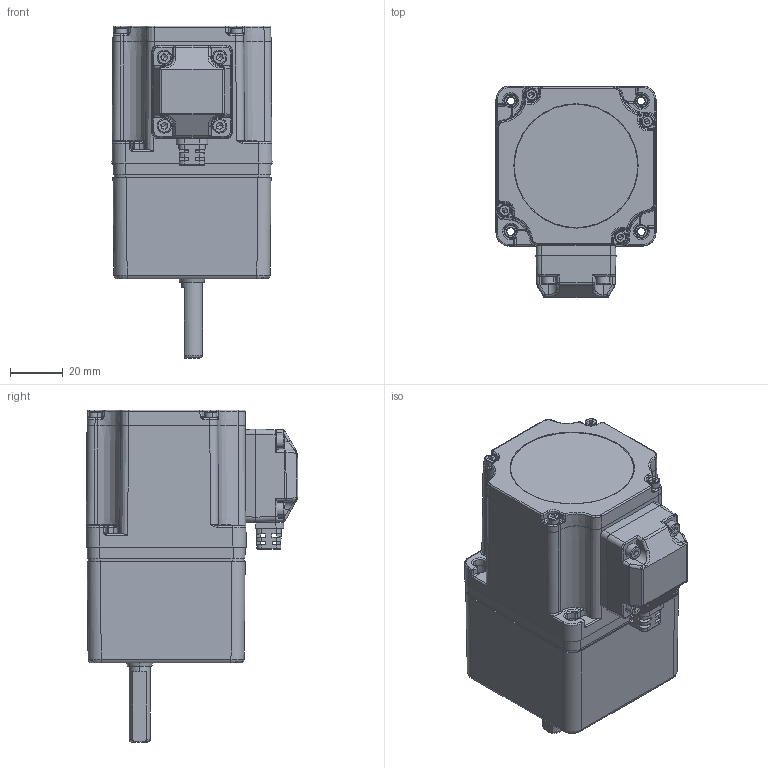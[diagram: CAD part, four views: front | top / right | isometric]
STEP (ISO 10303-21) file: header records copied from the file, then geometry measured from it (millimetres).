
FILE_DESCRIPTION (( 'STEP AP203' ), '1' );
FILE_NAME ('2GNK2淕儂湍諉盄碟.STEP', '2023-10-06T02:20:39', ( '' ), ( '' ), 'SwSTEP 2.0', 'SolidWorks 2019', '' );
FILE_SCHEMA (( 'CONFIG_CONTROL_DESIGN' ));
Length unit declared in the file: millimetre
Products named in the file (25): ____CHAMFER1-770.stp^____ADMI242897E1RCCY_ASM.stp___________________.stp____________________80K2______(2)_60 80__________.STEP; ____CHAMFER1-774.stp^____ADMI242897E1RCCY_ASM.stp___________________.stp____________________80K2______(2)_60 80__________.STEP; 60K________-0.STEP; ____CHAMFER1-771.stp^____ADMI242897E1RCCY_ASM.stp___________________.stp____________________80K2______(2)_60 80__________.STEP; ____1.stp^__________________.stp____________________80K2______(2)_60 80__________.STEP; _____X2_52079664_X0_-_X2_62C94F-775.stp^____ADMI242897E1RCCY_ASM.stp___________________.stp____________________80K2______(2)_60 80__________.STEP; 2GNK2淕儂湍諉盄碟; _____X2_52079664_X0_-_X2_62C94F-778.stp^____ADMI242897E1RCCY_ASM.stp___________________.stp____________________80K2______(2)_60 80__________.STEP; ____CHAMFER1-772.stp^____ADMI242897E1RCCY_ASM.stp___________________.stp____________________80K2______(2)_60 80__________.STEP; _____X2_52079664_X0_-_X2_62C94F-777.stp^____ADMI242897E1RCCY_ASM.stp___________________.stp____________________80K2______(2)_60 80__________.STEP; 60 80__________.STEP; ____MANIFOLD_SOLID_BREP_781.stp^____ADMI242897E1RCCY_ASM.stp___________________.stp____________________80K2______(2)_60 80__________.STEP; 60K2湍諉盄碟萇儂.STEP; ZD-2GNK2-505-001眊裔蚾饜; 80K2______(2)^60 80__________.STEP; __________________.stp^___________________80K2______(2)_60 80__________.STEP; ZD-2GNK2-504-001眊极蚾饜; __________________^80K2______(2)_60 80__________.STEP; ____MANIFOLD_SOLID_BREP_780.stp^____ADMI242897E1RCCY_ASM.stp___________________.stp____________________80K2______(2)_60 80__________.STEP; 60K________.STEP; ____ADMI242897E1RCCY_ASM.stp^__________________.stp____________________80K2______(2)_60 80__________.STEP; _____X2_52079664_X0_-_X2_62C94F-779.stp^____ADMI242897E1RCCY_ASM.stp___________________.stp____________________80K2______(2)_60 80__________.STEP; ____CHAMFER1-773.stp^____ADMI242897E1RCCY_ASM.stp___________________.stp____________________80K2______(2)_60 80__________.STEP; hexagon socket head cap screws gb_GB_FASTENER_SCREWS_HSHCS M2.5X25-N.STEP; ____CHAMFER1-776.stp^____ADMI242897E1RCCY_ASM.stp___________________.stp____________________80K2______(2)_60 80__________.STEP
Assembly tree (27 placements, depth 8):
  2GNK2淕儂湍諉盄碟
    ZD-2GNK2-504-001眊极蚾饜
    ZD-2GNK2-505-001眊裔蚾饜
    60K2湍諉盄碟萇儂.STEP
      60 80__________.STEP
        80K2______(2)^60 80__________.STEP
          __________________^80K2______(2)_60 80__________.STEP
            __________________.stp^___________________80K2______(2)_60 80__________.STEP
              ____ADMI242897E1RCCY_ASM.stp^__________________.stp____________________80K2______(2)_60 80__________.STEP
                ____CHAMFER1-770.stp^____ADMI242897E1RCCY_ASM.stp___________________.stp____________________80K2______(2)_60 80__________.STEP
                ____CHAMFER1-771.stp^____ADMI242897E1RCCY_ASM.stp___________________.stp____________________80K2______(2)_60 80__________.STEP
                ____CHAMFER1-772.stp^____ADMI242897E1RCCY_ASM.stp___________________.stp____________________80K2______(2)_60 80__________.STEP
                ____CHAMFER1-773.stp^____ADMI242897E1RCCY_ASM.stp___________________.stp____________________80K2______(2)_60 80__________.STEP
                ____CHAMFER1-774.stp^____ADMI242897E1RCCY_ASM.stp___________________.stp____________________80K2______(2)_60 80__________.STEP
                _____X2_52079664_X0_-_X2_62C94F-775.stp^____ADMI242897E1RCCY_ASM.stp___________________.stp____________________80K2______(2)_60 80__________.STEP
                ____CHAMFER1-776.stp^____ADMI242897E1RCCY_ASM.stp___________________.stp____________________80K2______(2)_60 80__________.STEP
                _____X2_52079664_X0_-_X2_62C94F-777.stp^____ADMI242897E1RCCY_ASM.stp___________________.stp____________________80K2______(2)_60 80__________.STEP
                _____X2_52079664_X0_-_X2_62C94F-778.stp^____ADMI242897E1RCCY_ASM.stp___________________.stp____________________80K2______(2)_60 80__________.STEP
                _____X2_52079664_X0_-_X2_62C94F-779.stp^____ADMI242897E1RCCY_ASM.stp___________________.stp____________________80K2______(2)_60 80__________.STEP
                ____MANIFOLD_SOLID_BREP_780.stp^____ADMI242897E1RCCY_ASM.stp___________________.stp____________________80K2______(2)_60 80__________.STEP
                ____MANIFOLD_SOLID_BREP_781.stp^____ADMI242897E1RCCY_ASM.stp___________________.stp____________________80K2______(2)_60 80__________.STEP
              ____1.stp^__________________.stp____________________80K2______(2)_60 80__________.STEP
      60K________.STEP
      60K________-0.STEP
      hexagon socket head cap screws gb_GB_FASTENER_SCREWS_HSHCS M2.5X25-N.STEP  x4
Bounding box: 60.73 x 80.38 x 126 mm (x, y, z)
Volume: 342110 mm3; surface area: 76416.3 mm2
Topology: 21 solids, 24 shells, 2663 faces, 7255 edges, 4584 vertices
Faces by surface type: plane 1172, cylinder 814, bspline 212, cone 211, torus 201, sphere 53
Entity records: 106288 total; most frequent: CARTESIAN_POINT 40730, ORIENTED_EDGE 14104, DIRECTION 12129, EDGE_CURVE 7052, VERTEX_POINT 4485, AXIS2_PLACEMENT_3D 4174, LINE 3781, VECTOR 3781
